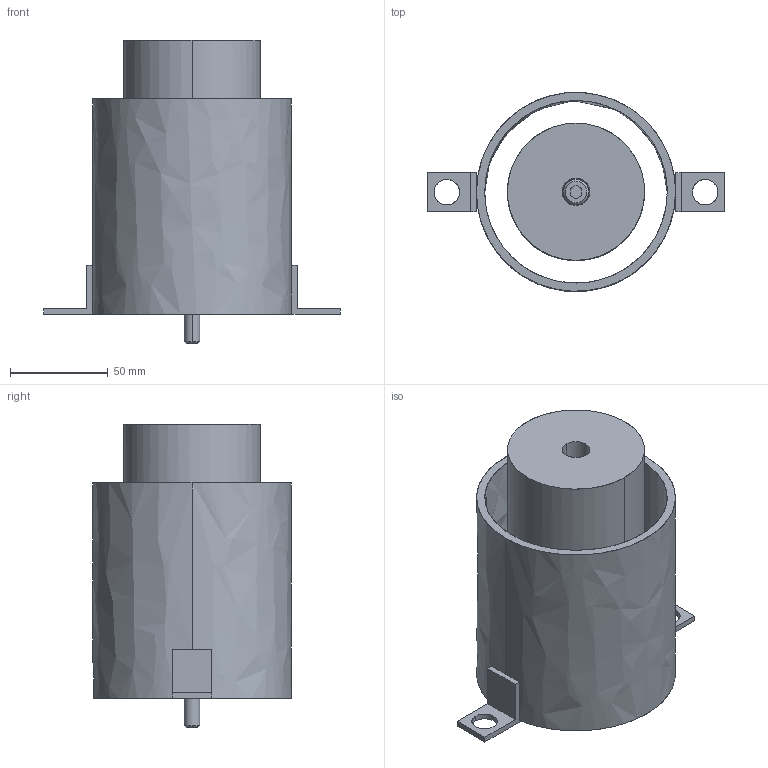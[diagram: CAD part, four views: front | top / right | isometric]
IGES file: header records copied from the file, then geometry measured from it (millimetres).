
Global section: file name: E:\UnigraphicsGraphicData\MISUMI_PRESS-PARTS\IGES\3d_phbt70-140-110-r_07068_r00.igs; native system: NX V5.0; preprocessor: UGS NX IGES V5.0; author: MISUMI; date: 20110105.162247; units: millimetre
Bounding box: 151.6 x 101.6 x 155 mm (x, y, z)
Surface area: 122410.9 mm2 (no closed solid volume)
Topology: 0 solids, 0 shells, 64 faces, 476 edges, 476 vertices
Faces by surface type: bspline 64
